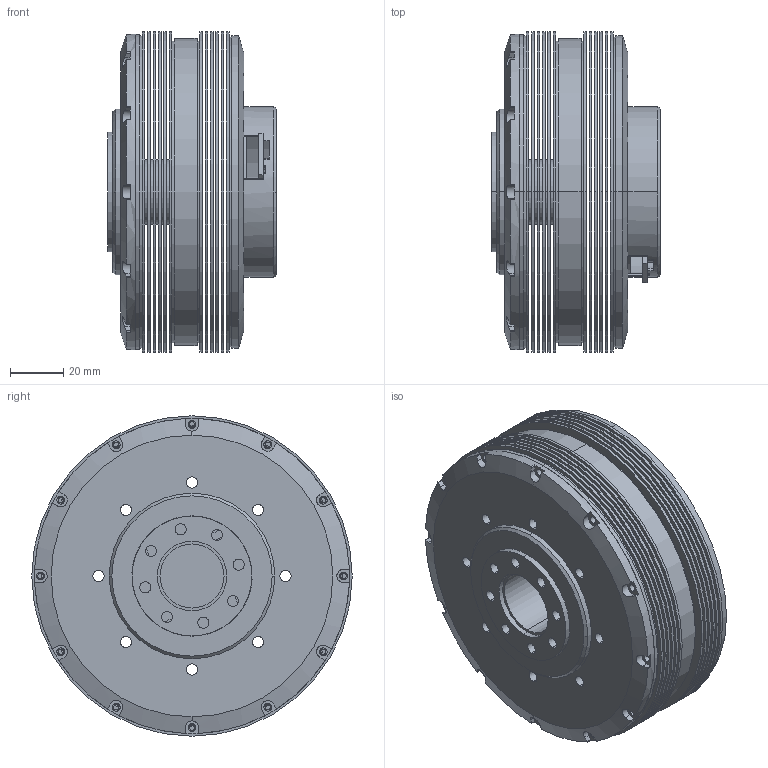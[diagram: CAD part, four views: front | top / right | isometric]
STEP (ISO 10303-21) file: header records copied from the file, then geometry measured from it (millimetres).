
FILE_DESCRIPTION (( 'STEP AP214' ), '1' );
FILE_NAME ('MS12025.STEP', '2022-01-13T01:40:42', ( '' ), ( '' ), 'SwSTEP 2.0', 'SolidWorks 2018', '' );
FILE_SCHEMA (( 'AUTOMOTIVE_DESIGN' ));
Length unit declared in the file: millimetre
Products named in the file (2): MS12025
Bounding box: 63.2 x 120 x 120 mm (x, y, z)
Surface area: 78262 mm2 (no closed solid volume)
Topology: 0 solids, 24 shells, 299 faces, 990 edges, 732 vertices
Faces by surface type: cylinder 197, plane 86, cone 16
Entity records: 23812 total; most frequent: CARTESIAN_POINT 15473, ORIENTED_EDGE 1649, DIRECTION 1546, EDGE_CURVE 990, VERTEX_POINT 732, AXIS2_PLACEMENT_3D 615, EDGE_LOOP 421, B_SPLINE_CURVE_WITH_KNOTS 360
